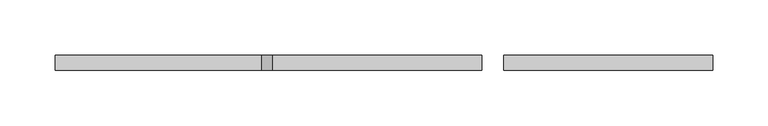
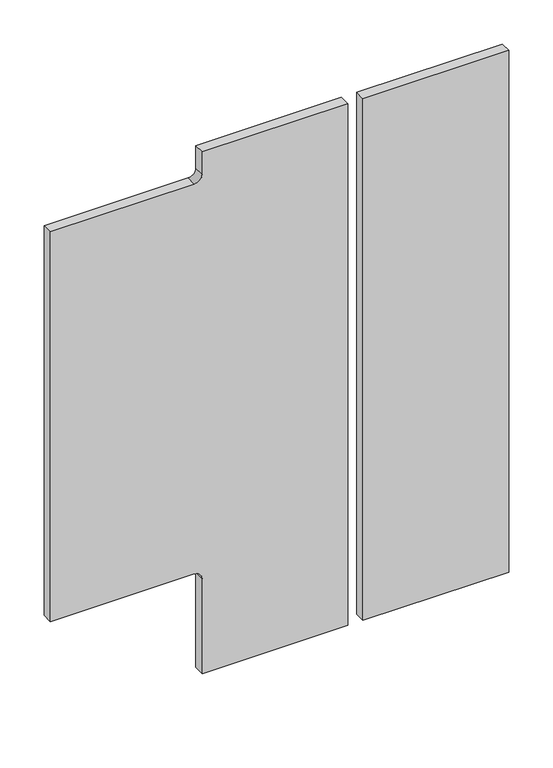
"""IFC4 building model written with IfcOpenShell, lengths in millimetres: fastener geometry, 主梁与次梁铰接节点3 : 主梁与次梁铰接节点1."""

from ifc_helpers import new_model, si_unit, point, frame, frame_2d, origin, place, context, project, spatial, polyline, circle_curve, trimmed, segment, composite_curve, outline, extrude, source, transform, mapped, element, save


def fastener_945d20c3(model_context):
    return source(origin(), model_context, "Body", "SweptSolid", [
        extrude(outline(polyline([(-289.5250948, -1600.6516809), (-479.5250948, -1600.6516809), (-479.5250948, -1586.6516809), (-289.5250948, -1586.6516809), (-289.5250948, -1600.6516809)])), frame((0.0, 0.0, 2320.0), z_axis=(0.0, 0.0, 1.0), x_axis=(1.0, 0.0, 0.0)), (0.0, 0.0, 1.0), 720.0),
        extrude(outline(composite_curve([segment(polyline([(2999.0, -887.5250948), (2461.0, -887.5250948), (2461.0, -699.5250948)]), True, "CONTINUOUS"), segment(trimmed(circle_curve(frame_2d((2451.0, -699.5250948)), 10.0), [point((2461.0, -699.5250948))], [point((2451.0, -689.5250948))], True, "CARTESIAN"), True, "CONTINUOUS"), segment(polyline([(2451.0, -689.5250948), (2320.0, -689.5250948), (2320.0, -499.5250948), (3040.0, -499.5250948), (3040.0, -689.5250948), (3009.0, -689.5250948)]), True, "CONTINUOUS"), segment(trimmed(circle_curve(frame_2d((3009.0, -699.5250948)), 10.0), [point((3009.0, -689.5250948))], [point((2999.0, -699.5250948))], True, "CARTESIAN"), True, "CONTINUOUS"), segment(polyline([(2999.0, -699.5250948), (2999.0, -887.5250948)]), True, "CONTINUOUS")], self_intersect=False)), frame((0.0, -1600.6516809, 0.0), z_axis=(0.0, 1.0, 0.0), x_axis=(0.0, 0.0, 1.0)), (0.0, 0.0, 1.0), 14.0),
    ])


if __name__ == "__main__":
    model = new_model("IFC4")
    model_context = context("Model", 3, world=origin())
    ifc_project = project(units=[si_unit("LENGTHUNIT", "METRE", prefix="MILLI")], contexts=[model_context])
    site = spatial("IfcSite", under=ifc_project)
    building = spatial("IfcBuilding", under=site)
    placement = place(None, origin())
    fastener_shape = fastener_945d20c3(model_context)
    element("IfcFastener", 1, ObjectType="主梁与次梁铰接节点3 : 主梁与次梁铰接节点1", at=placement, inside=building, context=model_context, shape_type="MappedRepresentation", body=[
        mapped(fastener_shape, transform((0.0, 0.0, 0.0), x_axis=(1.0, 0.0, 0.0), y_axis=(0.0, 1.0, 0.0), z_axis=(0.0, 0.0, 1.0))),
    ])
    save(model, "model.ifc")
